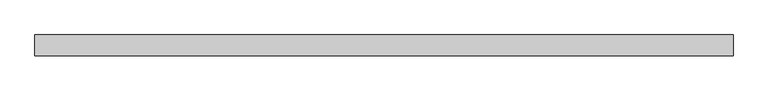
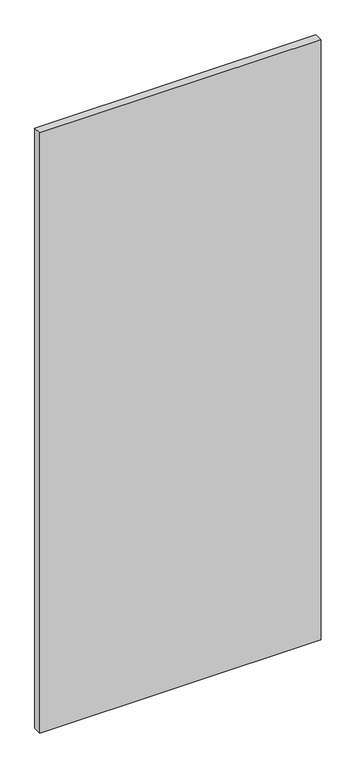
"""IFC4 building model written with IfcOpenShell, lengths in millimetres: plate geometry, Vitré."""

from ifc_helpers import new_model, si_unit, origin, origin_with_axes, place, context, project, spatial, polyline, outline, extrude, source, transform, mapped, element, save


def plate_c9455d8e(model_context):
    return source(origin(), model_context, "Body", "SweptSolid", [
        extrude(outline(polyline([(-675.0625002, -20.0), (-675.0625002, 20.0), (675.0625002, 20.0), (675.0625002, -20.0), (-675.0625002, -20.0)])), origin_with_axes(), (0.0, 0.0, 1.0), 3042.625),
    ])


if __name__ == "__main__":
    model = new_model("IFC4")
    model_context = context("Model", 3, world=origin())
    ifc_project = project(units=[si_unit("LENGTHUNIT", "METRE", prefix="MILLI")], contexts=[model_context])
    site = spatial("IfcSite", under=ifc_project)
    building = spatial("IfcBuilding", under=site)
    placement = place(None, origin())
    plate_shape = plate_c9455d8e(model_context)
    element("IfcPlate", 1, ObjectType="Vitré", at=placement, inside=building, context=model_context, shape_type="MappedRepresentation", body=[
        mapped(plate_shape, transform((0.0, 0.0, 0.0), x_axis=(1.0, 0.0, 0.0), y_axis=(0.0, 1.0, 0.0), z_axis=(0.0, 0.0, 1.0))),
    ])
    save(model, "model.ifc")
